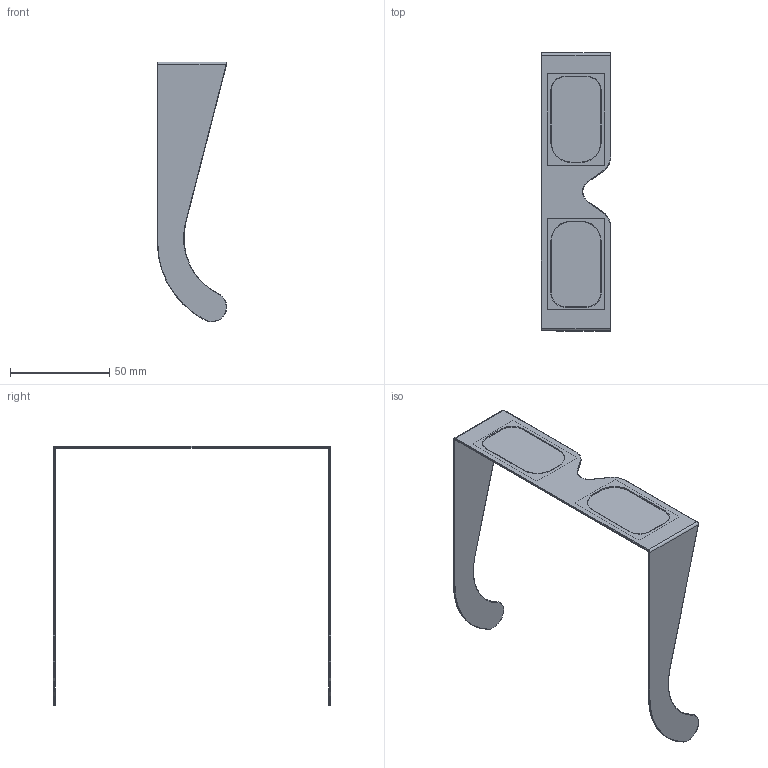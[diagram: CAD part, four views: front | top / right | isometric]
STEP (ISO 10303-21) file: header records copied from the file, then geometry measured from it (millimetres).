
FILE_DESCRIPTION((''),'2;1');
FILE_NAME('3DGLASS_ASM','2013-03-31T',('EOB.GAAB'),(''),'PRO/ENGINEER BY PARAMETRIC TECHNOLOGY CORPORATION, 2011080','PRO/ENGINEER BY PARAMETRIC TECHNOLOGY CORPORATION, 2011080','');
FILE_SCHEMA(('CONFIG_CONTROL_DESIGN','SHAPE_APPEARANCE_LAYERS_GROUPS'));
Length unit declared in the file: millimetre
Products named in the file (3): 3DGLASS_BODY; 3DGLASS_GLASS; 3DGLASS_ASM
Assembly tree (2 placements, depth 2):
  3DGLASS_ASM
    3DGLASS_BODY
    3DGLASS_GLASS
Bounding box: 35 x 140 x 131 mm (x, y, z)
Volume: 8716.1 mm3; surface area: 22720.1 mm2
Topology: 3 solids, 3 shells, 133 faces, 305 edges, 178 vertices
Faces by surface type: cylinder 55, torus 37, plane 33, bspline 8
Entity records: 4350 total; most frequent: CARTESIAN_POINT 1114, DIRECTION 698, ORIENTED_EDGE 610, EDGE_CURVE 305, AXIS2_PLACEMENT_3D 283, VERTEX_POINT 178, CIRCLE 153, EDGE_LOOP 137
